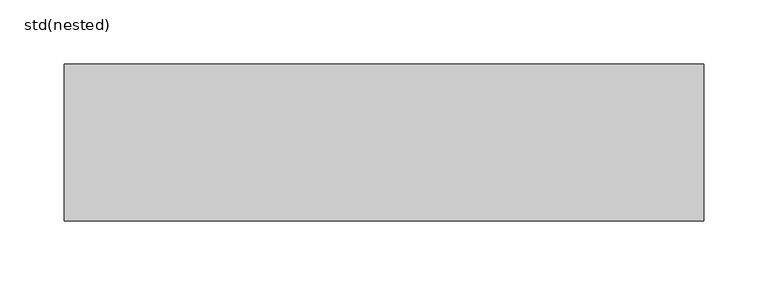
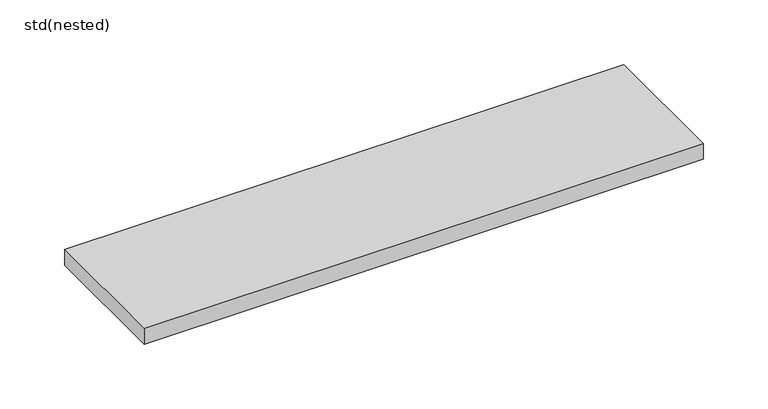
"""IFC4 building model written with IfcOpenShell, lengths in millimetres: sanitary terminal geometry, ZZZ_do not use_PF_ST_SlabDrain_H100_gratings_USA_ACO : std(nested)."""

from ifc_helpers import new_model, si_unit, frame, origin, place, context, project, spatial, polyline, outline, extrude, source, transform, mapped, element, save


def std_nested_458c9187(model_context):
    return source(origin(), model_context, "Body", "SweptSolid", [
        extrude(outline(polyline([(249.999, 61.5), (249.999, -61.5), (-249.999, -61.5), (-249.999, 61.5), (249.999, 61.5)])), frame((0.0, 0.0, -98.0), z_axis=(0.0, 0.0, 1.0), x_axis=(1.0, 0.0, 0.0)), (0.0, 0.0, 1.0), 15.0),
    ])


if __name__ == "__main__":
    model = new_model("IFC4")
    model_context = context("Model", 3, world=origin())
    ifc_project = project(units=[si_unit("LENGTHUNIT", "METRE", prefix="MILLI")], contexts=[model_context])
    site = spatial("IfcSite", under=ifc_project)
    building = spatial("IfcBuilding", under=site)
    placement = place(None, origin())
    std_nested_shape = std_nested_458c9187(model_context)
    element("IfcSanitaryTerminal", 1, ObjectType="ZZZ_do not use_PF_ST_SlabDrain_H100_gratings_USA_ACO : std(nested)", at=placement, inside=building, context=model_context, shape_type="MappedRepresentation", body=[
        mapped(std_nested_shape, transform((0.0, 0.0, 0.0), x_axis=(1.0, 0.0, 0.0), y_axis=(0.0, 1.0, 0.0), z_axis=(0.0, 0.0, 1.0))),
    ])
    save(model, "model.ifc")
